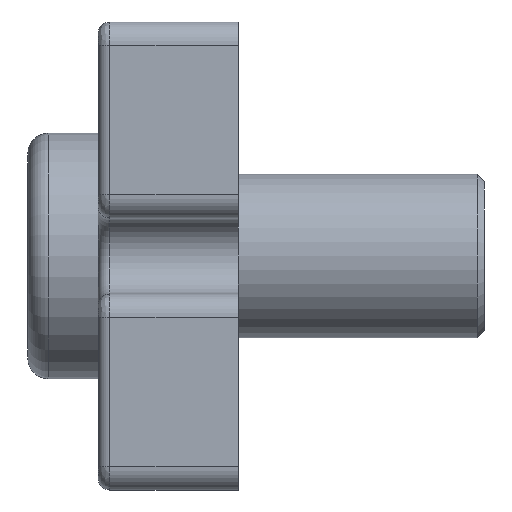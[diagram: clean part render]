
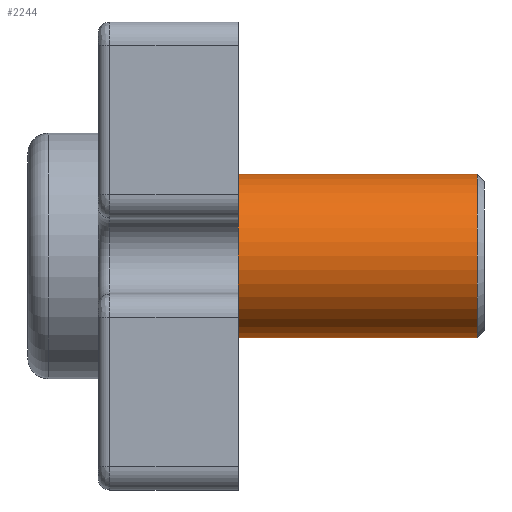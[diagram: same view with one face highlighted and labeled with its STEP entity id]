
A CAD part, left-side view. The second image highlights one B-rep face of the part: STEP entity #2244.
In plain terms, the highlighted cylindrical face has radius 7 mm (diameter 14 mm), a full revolution.
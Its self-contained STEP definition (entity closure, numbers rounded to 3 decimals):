
#224=FACE_OUTER_BOUND('',#366,.T.);
#366=EDGE_LOOP('',(#1986,#1987,#1988,#1989));
#530=LINE('',#4016,#701);
#701=VECTOR('',#3211,7.);
#872=CIRCLE('',#2536,7.);
#874=CIRCLE('',#2539,7.);
#1060=VERTEX_POINT('',#4008);
#1062=VERTEX_POINT('',#4014);
#1373=EDGE_CURVE('',#1060,#1060,#872,.T.);
#1376=EDGE_CURVE('',#1062,#1062,#874,.T.);
#1377=EDGE_CURVE('',#1062,#1060,#530,.T.);
#1986=ORIENTED_EDGE('',*,*,#1376,.T.);
#1987=ORIENTED_EDGE('',*,*,#1377,.T.);
#1988=ORIENTED_EDGE('',*,*,#1373,.T.);
#1989=ORIENTED_EDGE('',*,*,#1377,.F.);
#2125=CYLINDRICAL_SURFACE('',#2538,7.);
#2244=ADVANCED_FACE('',(#224),#2125,.T.);
#2536=AXIS2_PLACEMENT_3D('',#4009,#3202,#3203);
#2538=AXIS2_PLACEMENT_3D('',#4013,#3207,#3208);
#2539=AXIS2_PLACEMENT_3D('',#4015,#3209,#3210);
#3202=DIRECTION('center_axis',(0.,1.,0.));
#3203=DIRECTION('ref_axis',(0.,0.,-1.));
#3207=DIRECTION('center_axis',(0.,1.,0.));
#3208=DIRECTION('ref_axis',(0.,0.,1.));
#3209=DIRECTION('center_axis',(0.,-1.,0.));
#3210=DIRECTION('ref_axis',(0.,0.,-1.));
#3211=DIRECTION('',(0.,-1.,0.));
#4008=CARTESIAN_POINT('',(-23.319,-25.053,-7.));
#4009=CARTESIAN_POINT('Origin',(-23.319,-25.053,0.));
#4013=CARTESIAN_POINT('Origin',(-23.319,-25.653,0.));
#4014=CARTESIAN_POINT('',(-23.319,-0.653,-7.));
#4015=CARTESIAN_POINT('Origin',(-23.319,-0.653,0.));
#4016=CARTESIAN_POINT('',(-23.319,-25.653,-7.));
